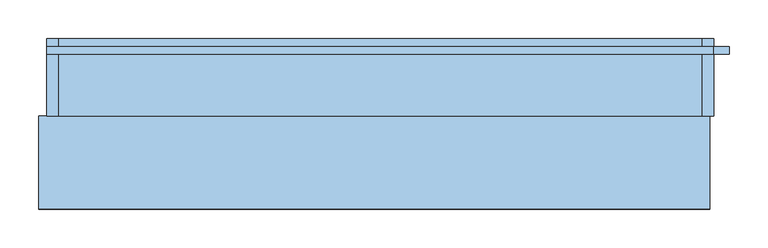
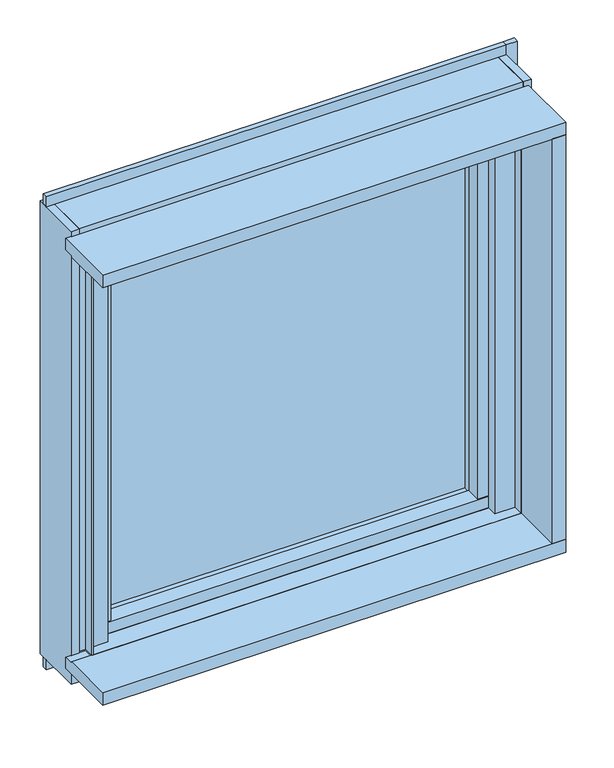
"""IFC4 building model written with IfcOpenShell, lengths in millimetres: window geometry, FNSⅡ100R_個別防火_面付枠_単窓 : 隠蔽突出排煙."""

from ifc_helpers import new_model, si_unit, frame, origin, place, context, project, spatial, polyline, outline, extrude, faceted_brep, source, transform, mapped, element, save


def window_d42248ff(model_context):
    return source(origin(), model_context, "Body", "SolidModel", [
        extrude(outline(polyline([(-343.0, 80.0), (343.0, 80.0), (343.0, 74.0), (-343.0, 74.0), (-343.0, 80.0)])), frame((0.0, 0.0, 919.0), z_axis=(0.0, 0.0, 1.0), x_axis=(1.0, 0.0, 0.0)), (0.0, 0.0, 1.0), 735.0),
        extrude(outline(polyline([(-343.0, 98.0), (343.0, 98.0), (343.0, 92.0), (-343.0, 92.0), (-343.0, 98.0)])), frame((0.0, 0.0, 919.0), z_axis=(0.0, 0.0, 1.0), x_axis=(1.0, 0.0, 0.0)), (0.0, 0.0, 1.0), 735.0),
        faceted_brep([(-400.0, 105.5, 1700.0), (-374.5, 105.5, 1700.0), (-374.5, 100.0, 1700.0), (-362.2, 100.0, 1700.0), (-362.2, 110.0, 1700.0), (-400.0, 110.0, 1700.0), (-400.0, 105.5, 869.0), (-400.0, 110.0, 869.0), (-362.2, 110.0, 869.0), (-362.2, 38.0, 869.0), (-374.5, 38.0, 869.0), (-374.5, 105.5, 869.0), (-374.5, 38.0, 1684.0), (-374.5, 100.0, 1684.0), (-362.2, 100.0, 1684.0), (-362.2, 38.0, 1684.0), (-362.2, 61.0, 1654.0), (-343.0, 61.0, 1654.0), (-343.0, 110.0, 1654.0), (-362.2, 110.0, 1654.0), (-362.2, 110.0, 919.0), (-343.0, 110.0, 919.0), (-343.0, 61.0, 919.0), (-362.2, 61.0, 919.0)], [[[0, 1, 2, 3, 4, 5]], [[6, 7, 8, 9, 10, 11]], [[1, 0, 6, 11]], [[11, 10, 12, 13, 2, 1]], [[14, 13, 12, 15]], [[13, 14, 3, 2]], [[16, 17, 18, 19]], [[20, 21, 22, 23]], [[5, 4, 19, 18, 21, 20, 8, 7]], [[0, 5, 7, 6]], [[10, 9, 15, 12]], [[9, 8, 20, 23, 16, 19, 4, 3, 14, 15]], [[17, 16, 23, 22]], [[18, 17, 22, 21]]]),
        faceted_brep([(400.0, 105.5, 1700.0), (400.0, 110.0, 1700.0), (363.0, 110.0, 1700.0), (363.0, 100.0, 1700.0), (376.8, 100.0, 1700.0), (376.8, 105.5, 1700.0), (400.0, 105.5, 869.0), (376.8, 105.5, 869.0), (376.8, 38.0, 869.0), (363.0, 38.0, 869.0), (363.0, 110.0, 869.0), (400.0, 110.0, 869.0), (376.8, 100.0, 1684.0), (376.8, 38.0, 1684.0), (363.0, 100.0, 1684.0), (363.0, 38.0, 1684.0), (363.0, 110.0, 1654.0), (343.0, 110.0, 1654.0), (343.0, 61.0, 1654.0), (363.0, 61.0, 1654.0), (363.0, 61.0, 919.0), (343.0, 61.0, 919.0), (343.0, 110.0, 919.0), (363.0, 110.0, 919.0)], [[[0, 1, 2, 3, 4, 5]], [[6, 7, 8, 9, 10, 11]], [[8, 7, 5, 4, 12, 13]], [[0, 5, 7, 6]], [[12, 14, 15, 13]], [[14, 12, 4, 3]], [[16, 17, 18, 19]], [[20, 21, 22, 23]], [[1, 0, 6, 11]], [[2, 1, 11, 10, 23, 22, 17, 16]], [[10, 9, 15, 14, 3, 2, 16, 19, 20, 23]], [[9, 8, 13, 15]], [[18, 17, 22, 21]], [[19, 18, 21, 20]]]),
        extrude(outline(polyline([(-343.0, 32.5), (-362.2, 32.5), (-362.2, 61.0), (-343.0, 61.0), (-343.0, 32.5)])), frame((0.0, 0.0, 922.0), z_axis=(0.0, 0.0, 1.0), x_axis=(1.0, 0.0, 0.0)), (0.0, 0.0, 1.0), 729.0),
        extrude(outline(polyline([(343.0, 32.5), (343.0, 61.0), (363.0, 61.0), (363.0, 32.5), (343.0, 32.5)])), frame((0.0, 0.0, 922.0), z_axis=(0.0, 0.0, 1.0), x_axis=(1.0, 0.0, 0.0)), (0.0, 0.0, 1.0), 729.0),
        extrude(outline(polyline([(363.0, 61.0), (363.0, 30.0), (-362.2, 30.0), (-362.2, 61.0), (363.0, 61.0)])), frame((0.0, 0.0, 900.0), z_axis=(0.0, 0.0, 1.0), x_axis=(1.0, 0.0, 0.0)), (0.0, 0.0, 1.0), 22.0),
        extrude(outline(polyline([(110.0, 869.0), (38.0, 869.0), (38.0, 900.0), (61.0, 900.0), (61.0, 919.0), (110.0, 919.0), (110.0, 869.0)])), frame((-362.2, 0.0, 0.0), z_axis=(1.0, 0.0, 0.0), x_axis=(0.0, 1.0, 0.0)), (0.0, 0.0, 1.0), 725.2),
        extrude(outline(polyline([(110.0, 1700.0), (110.0, 1654.0), (61.0, 1654.0), (61.0, 1673.2), (38.0, 1673.2), (38.0, 1684.0), (100.0, 1684.0), (100.0, 1700.0), (110.0, 1700.0)])), frame((-362.2, 0.0, 0.0), z_axis=(1.0, 0.0, 0.0), x_axis=(0.0, 1.0, 0.0)), (0.0, 0.0, 1.0), 725.2),
        extrude(outline(polyline([(363.0, 61.0), (363.0, 30.0), (-362.2, 30.0), (-362.2, 61.0), (363.0, 61.0)])), frame((0.0, 0.0, 1651.0), z_axis=(0.0, 0.0, 1.0), x_axis=(1.0, 0.0, 0.0)), (0.0, 0.0, 1.0), 22.2),
        faceted_brep([(-430.0, 110.0, 1735.0), (-415.0, 110.0, 1735.0), (-415.0, 110.0, 1700.0), (-400.0, 110.0, 1700.0), (-400.0, 110.0, 850.0), (-415.0, 110.0, 850.0), (-415.0, 110.0, 840.0), (-430.0, 110.0, 840.0), (-400.0, 34.0, 850.0), (-368.0, 34.0, 850.0), (-368.0, 29.0, 850.0), (-415.0, 29.0, 850.0), (-368.0, 29.0, 1700.0), (-415.0, 29.0, 1700.0), (-430.0, 10.0, 1735.0), (-415.0, 10.0, 1735.0), (-415.0, 10.0, 840.0), (-430.0, 10.0, 840.0), (-368.0, 34.0, 1700.0), (-400.0, 34.0, 1700.0)], [[[0, 1, 2, 3, 4, 5, 6, 7]], [[4, 8, 9, 10, 11, 5]], [[12, 13, 11, 10]], [[0, 14, 15, 1]], [[7, 6, 16, 17]], [[14, 0, 7, 17]], [[15, 14, 17, 16]], [[1, 15, 16, 6, 5, 11, 13, 2]], [[3, 2, 13, 12, 18, 19]], [[3, 19, 8, 4]], [[18, 12, 10, 9]], [[19, 18, 9, 8]]]),
        faceted_brep([(415.0, 29.0, 1700.0), (368.0, 29.0, 1700.0), (368.0, 29.0, 850.0), (415.0, 29.0, 850.0), (400.0, 34.0, 850.0), (400.0, 110.0, 850.0), (415.0, 110.0, 850.0), (368.0, 34.0, 850.0), (430.0, 10.0, 1735.0), (415.0, 10.0, 1735.0), (415.0, 10.0, 840.0), (430.0, 10.0, 840.0), (430.0, 110.0, 1735.0), (430.0, 110.0, 840.0), (415.0, 110.0, 1735.0), (415.0, 110.0, 1700.0), (415.0, 110.0, 840.0), (400.0, 34.0, 1700.0), (400.0, 110.0, 1700.0), (368.0, 34.0, 1700.0)], [[[0, 1, 2, 3]], [[4, 5, 6, 3, 2, 7]], [[8, 9, 10, 11]], [[12, 8, 11, 13]], [[9, 14, 15, 0, 3, 6, 16, 10]], [[9, 8, 12, 14]], [[10, 16, 13, 11]], [[17, 18, 5, 4]], [[17, 19, 1, 0, 15, 18]], [[14, 12, 13, 16, 6, 5, 18, 15]], [[19, 17, 4, 7]], [[1, 19, 7, 2]]]),
        extrude(outline(polyline([(400.0, -10.0), (400.0, 10.0), (362.0, 10.0), (362.0, 29.0), (415.0, 29.0), (415.0, 10.0), (403.0, 10.0), (403.0, -10.0), (400.0, -10.0)])), frame((0.0, 0.0, 900.0), z_axis=(0.0, 0.0, 1.0), x_axis=(1.0, 0.0, 0.0)), (0.0, 0.0, 1.0), 803.0),
        extrude(outline(polyline([(-415.0, 10.0), (-415.0, 29.0), (-362.0, 29.0), (-362.0, 10.0), (-400.0, 10.0), (-400.0, -10.0), (-403.0, -10.0), (-403.0, 10.0), (-415.0, 10.0)])), frame((0.0, 0.0, 900.0), z_axis=(0.0, 0.0, 1.0), x_axis=(1.0, 0.0, 0.0)), (0.0, 0.0, 1.0), 803.0),
        extrude(outline(polyline([(10.0, 890.0), (10.0, 897.0), (-10.0, 897.0), (-10.0, 900.0), (29.0, 900.0), (29.0, 890.0), (10.0, 890.0)])), frame((-403.0, 0.0, 0.0), z_axis=(1.0, 0.0, 0.0), x_axis=(0.0, 1.0, 0.0)), (0.0, 0.0, 1.0), 806.0),
        extrude(outline(polyline([(110.0, 840.0), (10.0, 840.0), (10.0, 890.0), (34.0, 890.0), (34.0, 865.0), (99.0, 865.0), (99.0, 850.0), (110.0, 850.0), (110.0, 840.0)])), frame((-415.0, 0.0, 0.0), z_axis=(1.0, 0.0, 0.0), x_axis=(0.0, 1.0, 0.0)), (0.0, 0.0, 1.0), 830.0),
        extrude(outline(polyline([(29.0, 1673.0), (7.5, 1673.0), (7.5, 1700.0), (-10.0, 1700.0), (-10.0, 1703.0), (10.0, 1703.0), (10.0, 1712.5), (29.0, 1712.5), (29.0, 1673.0)])), frame((-400.0, 0.0, 0.0), z_axis=(1.0, 0.0, 0.0), x_axis=(0.0, 1.0, 0.0)), (0.0, 0.0, 1.0), 800.0),
        extrude(outline(polyline([(110.0, 1700.0), (34.0, 1700.0), (34.0, 1679.0), (29.0, 1679.0), (29.0, 1712.5), (10.0, 1712.5), (10.0, 1735.0), (110.0, 1735.0), (110.0, 1700.0)])), frame((-415.0, 0.0, 0.0), z_axis=(1.0, 0.0, 0.0), x_axis=(0.0, 1.0, 0.0)), (0.0, 0.0, 1.0), 830.0),
        extrude(outline(polyline([(-110.0, 900.0), (-10.0, 900.0), (-10.0, 897.0), (10.0, 897.0), (10.0, 875.0), (-110.0, 875.0), (-110.0, 900.0)])), frame((-440.0, 0.0, 0.0), z_axis=(1.0, 0.0, 0.0), x_axis=(0.0, 1.0, 0.0)), (0.0, 0.0, 1.0), 865.0),
        extrude(outline(polyline([(-430.0, 90.0), (-430.0, 100.0), (430.0, 100.0), (430.0, 90.0), (-430.0, 90.0)])), frame((0.0, 0.0, 820.0), z_axis=(0.0, 0.0, 1.0), x_axis=(1.0, 0.0, 0.0)), (0.0, 0.0, 1.0), 20.0),
        extrude(outline(polyline([(403.0, 10.0), (425.0, 10.0), (425.0, -110.0), (400.0, -110.0), (400.0, -10.0), (403.0, -10.0), (403.0, 10.0)])), frame((0.0, 0.0, 900.0), z_axis=(0.0, 0.0, 1.0), x_axis=(1.0, 0.0, 0.0)), (0.0, 0.0, 1.0), 800.0),
        extrude(outline(polyline([(450.0, 90.0), (430.0, 90.0), (430.0, 100.0), (450.0, 100.0), (450.0, 90.0)])), frame((0.0, 0.0, 820.0), z_axis=(0.0, 0.0, 1.0), x_axis=(1.0, 0.0, 0.0)), (0.0, 0.0, 1.0), 935.0),
        extrude(outline(polyline([(-110.0, 1725.0), (10.0, 1725.0), (10.0, 1703.0), (-10.0, 1703.0), (-10.0, 1700.0), (-110.0, 1700.0), (-110.0, 1725.0)])), frame((-440.0, 0.0, 0.0), z_axis=(1.0, 0.0, 0.0), x_axis=(0.0, 1.0, 0.0)), (0.0, 0.0, 1.0), 865.0),
        extrude(outline(polyline([(-430.0, 90.0), (-430.0, 100.0), (430.0, 100.0), (430.0, 90.0), (-430.0, 90.0)])), frame((0.0, 0.0, 1735.0), z_axis=(0.0, 0.0, 1.0), x_axis=(1.0, 0.0, 0.0)), (0.0, 0.0, 1.0), 20.0),
    ])


if __name__ == "__main__":
    model = new_model("IFC4")
    model_context = context("Model", 3, world=origin())
    ifc_project = project(units=[si_unit("LENGTHUNIT", "METRE", prefix="MILLI")], contexts=[model_context])
    site = spatial("IfcSite", under=ifc_project)
    building = spatial("IfcBuilding", under=site)
    placement = place(None, origin())
    window_shape = window_d42248ff(model_context)
    element("IfcWindow", 1, ObjectType="FNSⅡ100R_個別防火_面付枠_単窓 : 隠蔽突出排煙", at=placement, inside=building, context=model_context, shape_type="MappedRepresentation", body=[
        mapped(window_shape, transform((0.0, 0.0, 0.0), x_axis=(1.0, 0.0, 0.0), y_axis=(0.0, 1.0, 0.0), z_axis=(0.0, 0.0, 1.0))),
    ])
    save(model, "model.ifc")
